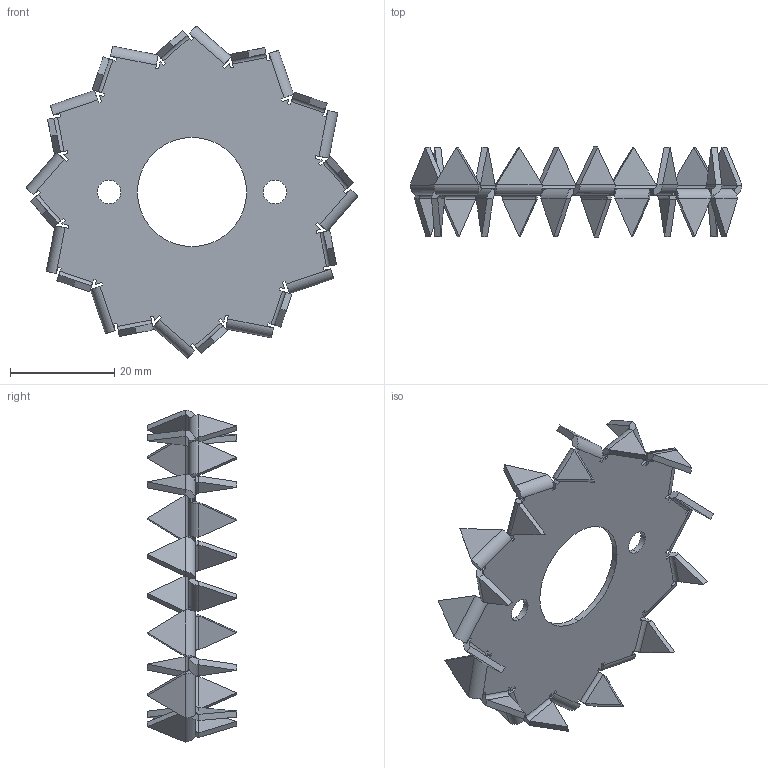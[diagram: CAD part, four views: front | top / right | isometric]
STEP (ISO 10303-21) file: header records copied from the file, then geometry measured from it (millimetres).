
FILE_DESCRIPTION (( 'STEP AP203' ), '1' );
FILE_NAME ('D62.STEP', '2020-05-20T09:48:00', ( '' ), ( '' ), 'SwSTEP 2.0', 'SolidWorks 2013', '' );
FILE_SCHEMA (( 'CONFIG_CONTROL_DESIGN' ));
Length unit declared in the file: millimetre
Products named in the file (1): D62
Bounding box: 63.81 x 17.2 x 63.81 mm (x, y, z)
Volume: 3632 mm3; surface area: 6864.8 mm2
Topology: 1 solids, 1 shells, 320 faces, 762 edges, 444 vertices
Faces by surface type: plane 266, cylinder 54
Entity records: 8987 total; most frequent: CARTESIAN_POINT 1527, ORIENTED_EDGE 1524, DIRECTION 1512, EDGE_CURVE 762, VECTOR 654, LINE 654, VERTEX_POINT 444, AXIS2_PLACEMENT_3D 429
